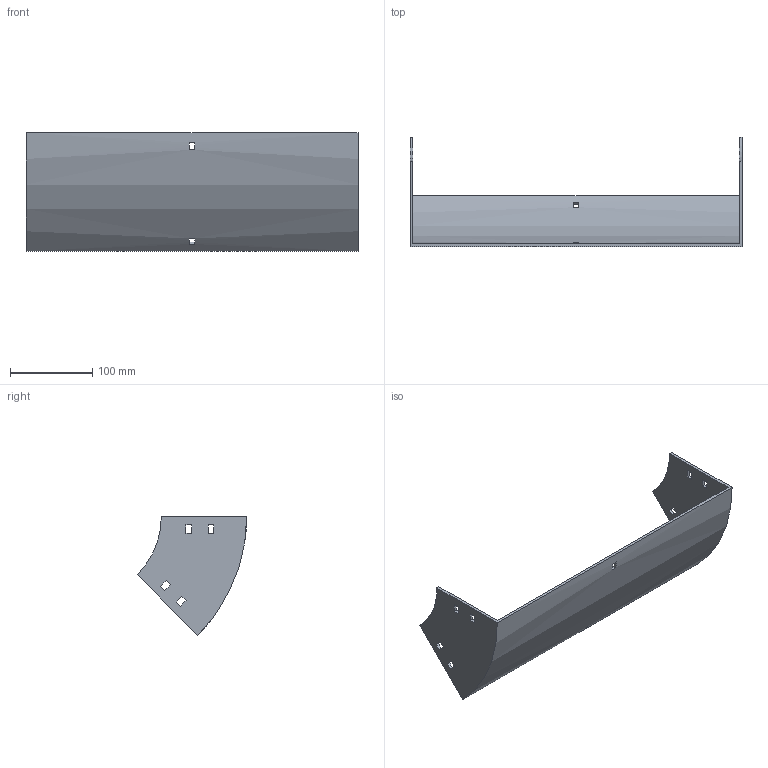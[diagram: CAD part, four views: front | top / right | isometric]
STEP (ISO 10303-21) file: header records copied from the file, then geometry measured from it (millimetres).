
FILE_DESCRIPTION (( 'STEP AP214' ), '1' );
FILE_NAME ('31B1D400.step', '2025-02-21T09:45:47', ( '' ), ( '' ), 'SwSTEP 2.0', 'SolidWorks 2023', '' );
FILE_SCHEMA (( 'AUTOMOTIVE_DESIGN' ));
Length unit declared in the file: millimetre
Products named in the file (1): 31B1D400
Bounding box: 404 x 133.29 x 144.25 mm (x, y, z)
Volume: 305255.7 mm3; surface area: 180396 mm2
Topology: 1 solids, 1 shells, 50 faces, 144 edges, 96 vertices
Faces by surface type: plane 46, cylinder 4
Entity records: 1687 total; most frequent: CARTESIAN_POINT 291, ORIENTED_EDGE 288, DIRECTION 262, EDGE_CURVE 144, VECTOR 128, LINE 128, VERTEX_POINT 96, EDGE_LOOP 70
